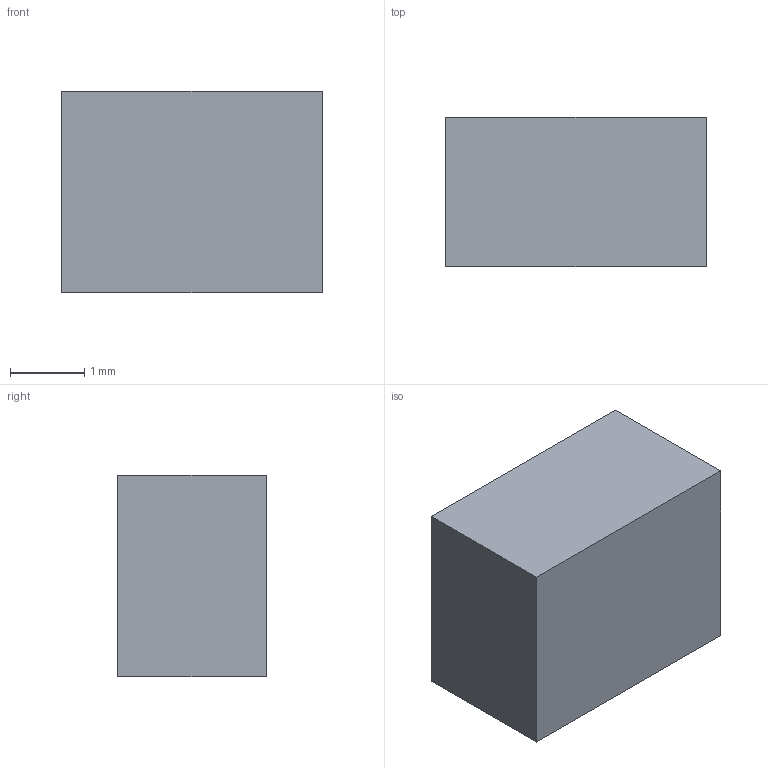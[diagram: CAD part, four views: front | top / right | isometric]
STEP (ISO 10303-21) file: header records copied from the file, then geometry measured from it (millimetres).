
FILE_DESCRIPTION(('Open CASCADE Model'),'2;1');
FILE_NAME('CUT_P01_J8_REAR_OPEN_J9_CORNER_FINAL','2026-09-15T14:35:25',( 'Author'),('Open CASCADE'),'Open CASCADE STEP processor 7.9', 'build123d','Unknown');
FILE_SCHEMA(('AUTOMOTIVE_DESIGN { 1 0 10303 214 1 1 1 1 }'));
Length unit declared in the file: millimetre
Products named in the file (1): CUT_P01_J8_REAR_OPEN_J9_CORNER_FINAL
Bounding box: 3.5 x 2 x 2.71 mm (x, y, z)
Volume: 19 mm3; surface area: 43.8 mm2
Topology: 1 solids, 1 shells, 6 faces, 12 edges, 8 vertices
Faces by surface type: plane 6
Entity records: 322 total; most frequent: CARTESIAN_POINT 51, DIRECTION 50, LINE 36, VECTOR 36, ORIENTED_EDGE 24, PCURVE 24, DEFINITIONAL_REPRESENTATION 24, EDGE_CURVE 12
